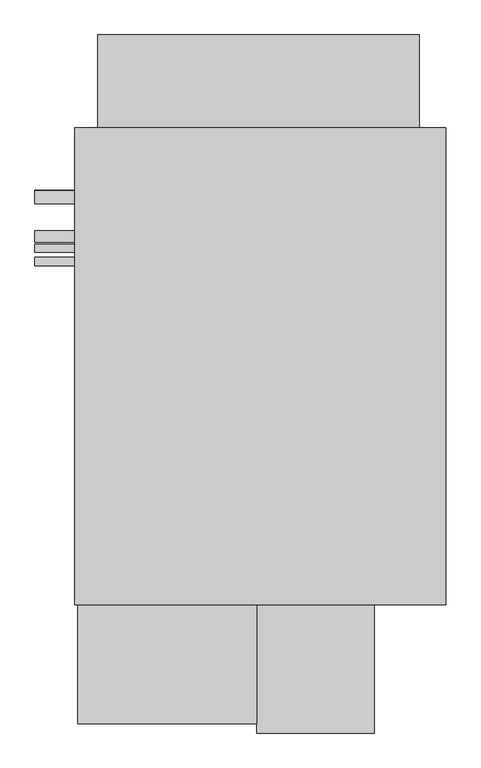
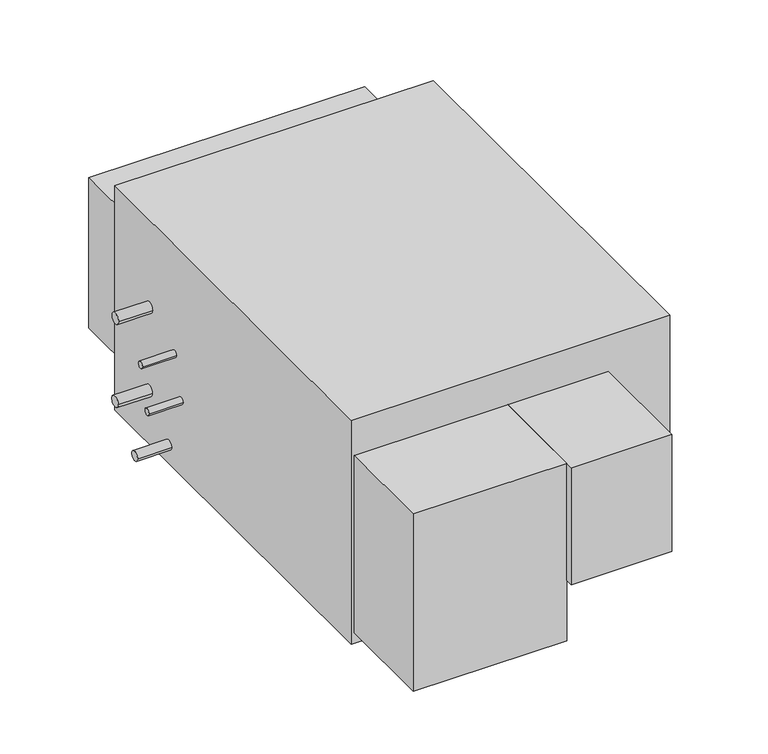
"""IFC4 building model written with IfcOpenShell, lengths in millimetres: proxy geometry, Horizontal_Direct_Drive_Blower_Coil_Unit_-_42DHA_-_CARRIER_-_4-Pipe_LH_2022 : Size 06 - 460v/60Hz/3Ph - 6/2 Coil."""

from ifc_helpers import new_model, si_unit, point, frame, frame_2d, origin, place, context, project, spatial, polyline, circle_curve, trimmed, segment, composite_curve, outline, extrude, source, transform, mapped, element, save


def mechanical_equipment_ef40f588(model_context):
    return source(origin(), model_context, "Body", "SweptSolid", [
        extrude(outline(composite_curve([segment(trimmed(circle_curve(frame_2d((358.775, -205.7657415)), 12.7), [point((371.475, -205.7657415))], [point((346.075, -205.7657415))], False, "CARTESIAN"), True, "CONTINUOUS"), segment(trimmed(circle_curve(frame_2d((358.775, -205.7657415)), 12.7), [point((346.075, -205.7657415))], [point((371.475, -205.7657415))], False, "CARTESIAN"), True, "CONTINUOUS")], self_intersect=False)), frame((-1143.0, 0.0, 0.0), z_axis=(1.0, 0.0, 0.0), x_axis=(0.0, 1.0, 0.0)), (0.0, 0.0, 1.0), 76.2),
        extrude(outline(composite_curve([segment(trimmed(circle_curve(frame_2d((359.642288, -402.6157415)), 12.7), [point((372.342288, -402.6157415))], [point((346.942288, -402.6157415))], False, "CARTESIAN"), True, "CONTINUOUS"), segment(trimmed(circle_curve(frame_2d((359.642288, -402.6157415)), 12.7), [point((346.942288, -402.6157415))], [point((372.342288, -402.6157415))], False, "CARTESIAN"), True, "CONTINUOUS")], self_intersect=False)), frame((-1143.0, 0.0, 0.0), z_axis=(1.0, 0.0, 0.0), x_axis=(0.0, 1.0, 0.0)), (0.0, 0.0, 1.0), 76.2),
        extrude(outline(composite_curve([segment(trimmed(circle_curve(frame_2d((283.442288, -485.1657415)), 11.1125), [point((294.554788, -485.1657415))], [point((272.329788, -485.1657415))], False, "CARTESIAN"), True, "CONTINUOUS"), segment(trimmed(circle_curve(frame_2d((283.442288, -485.1657415)), 11.1125), [point((272.329788, -485.1657415))], [point((294.554788, -485.1657415))], False, "CARTESIAN"), True, "CONTINUOUS")], self_intersect=False)), frame((-1143.0, 0.0, 0.0), z_axis=(1.0, 0.0, 0.0), x_axis=(0.0, 1.0, 0.0)), (0.0, 0.0, 1.0), 76.2),
        extrude(outline(composite_curve([segment(trimmed(circle_curve(frame_2d((261.217288, -256.5657415)), 7.9375), [point((269.154788, -256.5657415))], [point((253.279788, -256.5657415))], False, "CARTESIAN"), True, "CONTINUOUS"), segment(trimmed(circle_curve(frame_2d((261.217288, -256.5657415)), 7.9375), [point((253.279788, -256.5657415))], [point((269.154788, -256.5657415))], False, "CARTESIAN"), True, "CONTINUOUS")], self_intersect=False)), frame((-1143.0, 0.0, 0.0), z_axis=(1.0, 0.0, 0.0), x_axis=(0.0, 1.0, 0.0)), (0.0, 0.0, 1.0), 76.2),
        extrude(outline(composite_curve([segment(trimmed(circle_curve(frame_2d((235.817288, -352.0949971)), 7.9375), [point((243.754788, -352.0949971))], [point((227.879788, -352.0949971))], False, "CARTESIAN"), True, "CONTINUOUS"), segment(trimmed(circle_curve(frame_2d((235.817288, -352.0949971)), 7.9375), [point((227.879788, -352.0949971))], [point((243.754788, -352.0949971))], False, "CARTESIAN"), True, "CONTINUOUS")], self_intersect=False)), frame((-1143.0, 0.0, 0.0), z_axis=(1.0, 0.0, 0.0), x_axis=(0.0, 1.0, 0.0)), (0.0, 0.0, 1.0), 76.2),
        extrude(outline(polyline([(-355.6, 492.125), (-355.6, -422.275), (-1066.8, -422.275), (-1066.8, 492.125), (-355.6, 492.125)])), frame((0.0, 0.0, -529.6157415), z_axis=(0.0, 0.0, 1.0), x_axis=(1.0, 0.0, 0.0)), (0.0, 0.0, 1.0), 529.6157415),
        extrude(outline(polyline([(-717.55, -650.875), (-1060.45, -650.875), (-1060.45, -422.275), (-717.55, -422.275), (-717.55, -650.875)])), frame((0.0, 0.0, -504.2157415), z_axis=(0.0, 0.0, 1.0), x_axis=(1.0, 0.0, 0.0)), (0.0, 0.0, 1.0), 419.1),
        extrude(outline(polyline([(-1022.35, 669.925), (-406.4, 669.925), (-406.4, 492.125), (-1022.35, 492.125), (-1022.35, 669.925)])), frame((0.0, 0.0, -459.7657415), z_axis=(0.0, 0.0, 1.0), x_axis=(1.0, 0.0, 0.0)), (0.0, 0.0, 1.0), 355.6),
        extrude(outline(polyline([(-492.125, -668.3375), (-717.55, -668.3375), (-717.55, -422.275), (-492.125, -422.275), (-492.125, -668.3375)])), frame((0.0, 0.0, -361.3407415), z_axis=(0.0, 0.0, 1.0), x_axis=(1.0, 0.0, 0.0)), (0.0, 0.0, 1.0), 276.225),
    ])


if __name__ == "__main__":
    model = new_model("IFC4")
    model_context = context("Model", 3, world=origin())
    ifc_project = project(units=[si_unit("LENGTHUNIT", "METRE", prefix="MILLI")], contexts=[model_context])
    site = spatial("IfcSite", under=ifc_project)
    building = spatial("IfcBuilding", under=site)
    placement = place(None, origin())
    mechanical_equipment_shape = mechanical_equipment_ef40f588(model_context)
    element("IfcBuildingElementProxy", 1, Name="Horizontal_Direct_Drive_Blower_Coil_Unit_-_42DHA_-_CARRIER_-_4-Pipe_LH_2022 : Size 06 - 460v/60Hz/3Ph - 6/2 Coil", ObjectType="Horizontal_Direct_Drive_Blower_Coil_Unit_-_42DHA_-_CARRIER_-_4-Pipe_LH_2022 : Size 06 - 460v/60Hz/3Ph - 6/2 Coil", at=placement, inside=building, context=model_context, shape_type="MappedRepresentation", body=[
        mapped(mechanical_equipment_shape, transform((0.0, 0.0, 0.0), x_axis=(1.0, 0.0, 0.0), y_axis=(0.0, 1.0, 0.0), z_axis=(0.0, 0.0, 1.0))),
    ])
    save(model, "model.ifc")
